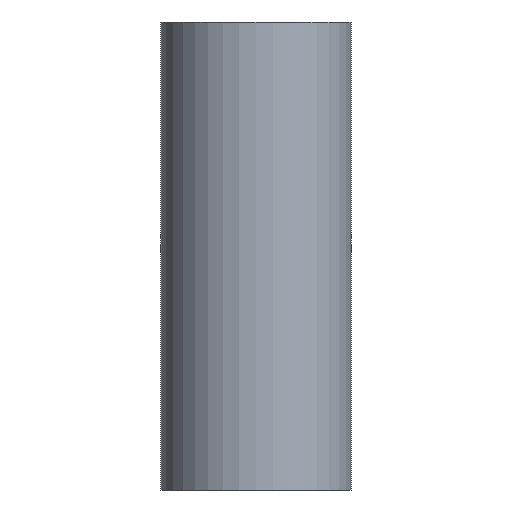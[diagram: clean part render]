
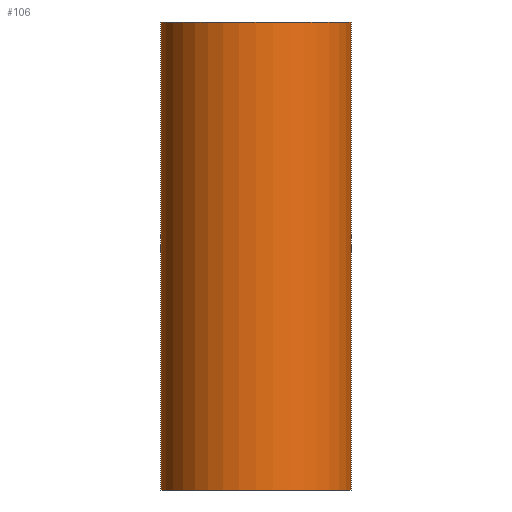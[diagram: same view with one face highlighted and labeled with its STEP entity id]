
A CAD part, left-side view. The second image highlights one B-rep face of the part: STEP entity #106.
In plain terms, the highlighted cylindrical face has radius 55 mm (diameter 110 mm), a full revolution.
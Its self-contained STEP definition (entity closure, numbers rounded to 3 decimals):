
#23=FACE_BOUND('',#47,.T.);
#24=FACE_BOUND('',#48,.T.);
#27=B_SPLINE_CURVE_WITH_KNOTS('',3,(#237,#238,#239,#240,#241,#242,#243,
#244,#245,#246,#247,#248,#249,#250,#251,#252,#253,#254,#255,#256,#257,#258,
#259,#260,#261,#262,#263,#264,#265,#266,#267,#268,#269,#270,#271,#272,#273,
#274,#275,#276,#277,#278,#279,#280,#281,#282,#283,#284,#285,#286,#287,#288,
#289,#290,#291,#292,#293,#294),.UNSPECIFIED.,.T.,.F.,(4,2,2,2,2,2,2,2,2,
2,2,2,2,2,2,2,2,2,2,2,2,2,2,2,2,2,2,2,4),(0.,0.897,1.794,
3.588,4.691,5.242,5.793,6.344,
6.896,7.998,9.792,10.689,11.586,
12.241,12.895,13.549,14.204,14.721,
15.238,15.755,16.273,16.79,17.307,
17.824,18.342,18.996,19.65,20.305,
20.959),.UNSPECIFIED.);
#33=FACE_OUTER_BOUND('',#46,.T.);
#46=EDGE_LOOP('',(#84));
#47=EDGE_LOOP('',(#85));
#48=EDGE_LOOP('',(#86));
#55=CIRCLE('',#137,55.);
#56=CIRCLE('',#139,55.);
#62=VERTEX_POINT('',#236);
#63=VERTEX_POINT('',#297);
#64=VERTEX_POINT('',#300);
#70=EDGE_CURVE('',#62,#62,#27,.T.);
#71=EDGE_CURVE('',#63,#63,#55,.T.);
#72=EDGE_CURVE('',#64,#64,#56,.T.);
#84=ORIENTED_EDGE('',*,*,#71,.T.);
#85=ORIENTED_EDGE('',*,*,#70,.T.);
#86=ORIENTED_EDGE('',*,*,#72,.F.);
#92=CYLINDRICAL_SURFACE('',#138,55.);
#106=ADVANCED_FACE('',(#33,#23,#24),#92,.T.);
#137=AXIS2_PLACEMENT_3D('',#298,#161,#162);
#138=AXIS2_PLACEMENT_3D('',#299,#163,#164);
#139=AXIS2_PLACEMENT_3D('',#301,#165,#166);
#161=DIRECTION('center_axis',(0.,0.,-1.));
#162=DIRECTION('ref_axis',(1.,0.,0.));
#163=DIRECTION('center_axis',(0.,0.,-1.));
#164=DIRECTION('ref_axis',(-1.,0.,0.));
#165=DIRECTION('center_axis',(0.,0.,-1.));
#166=DIRECTION('ref_axis',(1.,0.,0.));
#236=CARTESIAN_POINT('',(47.339,-28.,137.339));
#237=CARTESIAN_POINT('Ctrl Pts',(47.339,-28.,137.339));
#238=CARTESIAN_POINT('Ctrl Pts',(47.339,-28.,140.329));
#239=CARTESIAN_POINT('Ctrl Pts',(47.483,-27.76,143.423));
#240=CARTESIAN_POINT('Ctrl Pts',(48.008,-26.843,149.646));
#241=CARTESIAN_POINT('Ctrl Pts',(48.387,-26.166,152.775));
#242=CARTESIAN_POINT('Ctrl Pts',(49.748,-23.537,161.959));
#243=CARTESIAN_POINT('Ctrl Pts',(50.95,-20.998,167.814));
#244=CARTESIAN_POINT('Ctrl Pts',(52.745,-15.732,175.706));
#245=CARTESIAN_POINT('Ctrl Pts',(53.487,-13.172,178.728));
#246=CARTESIAN_POINT('Ctrl Pts',(54.337,-8.654,182.065));
#247=CARTESIAN_POINT('Ctrl Pts',(54.575,-7.035,182.981));
#248=CARTESIAN_POINT('Ctrl Pts',(54.907,-3.627,184.248));
#249=CARTESIAN_POINT('Ctrl Pts',(55.,-1.838,184.598));
#250=CARTESIAN_POINT('Ctrl Pts',(55.,1.838,184.598));
#251=CARTESIAN_POINT('Ctrl Pts',(54.907,3.627,184.248));
#252=CARTESIAN_POINT('Ctrl Pts',(54.575,7.035,182.981));
#253=CARTESIAN_POINT('Ctrl Pts',(54.337,8.654,182.065));
#254=CARTESIAN_POINT('Ctrl Pts',(53.487,13.172,178.728));
#255=CARTESIAN_POINT('Ctrl Pts',(52.745,15.732,175.706));
#256=CARTESIAN_POINT('Ctrl Pts',(50.95,20.998,167.814));
#257=CARTESIAN_POINT('Ctrl Pts',(49.748,23.537,161.959));
#258=CARTESIAN_POINT('Ctrl Pts',(48.387,26.166,152.775));
#259=CARTESIAN_POINT('Ctrl Pts',(48.008,26.843,149.646));
#260=CARTESIAN_POINT('Ctrl Pts',(47.483,27.76,143.423));
#261=CARTESIAN_POINT('Ctrl Pts',(47.339,28.,140.329));
#262=CARTESIAN_POINT('Ctrl Pts',(47.339,28.,135.158));
#263=CARTESIAN_POINT('Ctrl Pts',(47.416,27.871,132.883));
#264=CARTESIAN_POINT('Ctrl Pts',(47.775,27.251,128.346));
#265=CARTESIAN_POINT('Ctrl Pts',(48.058,26.759,126.086));
#266=CARTESIAN_POINT('Ctrl Pts',(48.818,25.347,121.773));
#267=CARTESIAN_POINT('Ctrl Pts',(49.296,24.424,119.716));
#268=CARTESIAN_POINT('Ctrl Pts',(50.357,22.152,115.965));
#269=CARTESIAN_POINT('Ctrl Pts',(50.94,20.802,114.271));
#270=CARTESIAN_POINT('Ctrl Pts',(51.954,18.095,111.646));
#271=CARTESIAN_POINT('Ctrl Pts',(52.413,16.739,110.573));
#272=CARTESIAN_POINT('Ctrl Pts',(53.269,13.775,108.705));
#273=CARTESIAN_POINT('Ctrl Pts',(53.665,12.167,107.908));
#274=CARTESIAN_POINT('Ctrl Pts',(54.318,8.804,106.641));
#275=CARTESIAN_POINT('Ctrl Pts',(54.576,7.046,106.167));
#276=CARTESIAN_POINT('Ctrl Pts',(54.917,3.506,105.548));
#277=CARTESIAN_POINT('Ctrl Pts',(55.,1.724,105.402));
#278=CARTESIAN_POINT('Ctrl Pts',(55.,-1.724,105.402));
#279=CARTESIAN_POINT('Ctrl Pts',(54.917,-3.506,105.548));
#280=CARTESIAN_POINT('Ctrl Pts',(54.576,-7.046,106.167));
#281=CARTESIAN_POINT('Ctrl Pts',(54.318,-8.804,106.641));
#282=CARTESIAN_POINT('Ctrl Pts',(53.665,-12.167,107.908));
#283=CARTESIAN_POINT('Ctrl Pts',(53.269,-13.775,108.705));
#284=CARTESIAN_POINT('Ctrl Pts',(52.413,-16.739,110.573));
#285=CARTESIAN_POINT('Ctrl Pts',(51.954,-18.095,111.646));
#286=CARTESIAN_POINT('Ctrl Pts',(50.94,-20.802,114.271));
#287=CARTESIAN_POINT('Ctrl Pts',(50.357,-22.152,115.965));
#288=CARTESIAN_POINT('Ctrl Pts',(49.296,-24.424,119.716));
#289=CARTESIAN_POINT('Ctrl Pts',(48.818,-25.347,121.773));
#290=CARTESIAN_POINT('Ctrl Pts',(48.058,-26.759,126.086));
#291=CARTESIAN_POINT('Ctrl Pts',(47.775,-27.251,128.346));
#292=CARTESIAN_POINT('Ctrl Pts',(47.416,-27.871,132.883));
#293=CARTESIAN_POINT('Ctrl Pts',(47.339,-28.,135.158));
#294=CARTESIAN_POINT('Ctrl Pts',(47.339,-28.,137.339));
#297=CARTESIAN_POINT('',(-55.,0.,270.));
#298=CARTESIAN_POINT('Origin',(0.,0.,270.));
#299=CARTESIAN_POINT('Origin',(0.,0.,135.));
#300=CARTESIAN_POINT('',(-55.,0.,0.));
#301=CARTESIAN_POINT('Origin',(0.,0.,0.));
